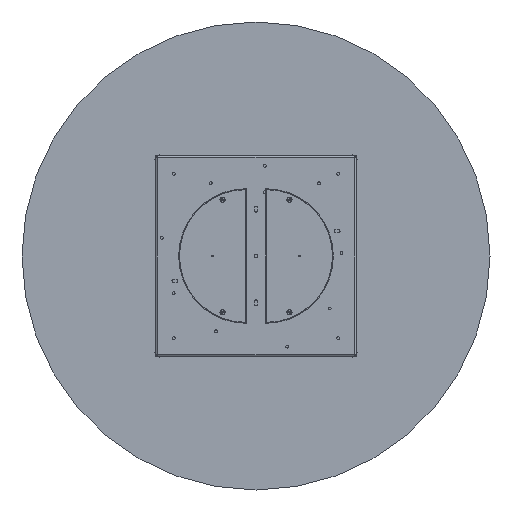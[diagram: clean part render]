
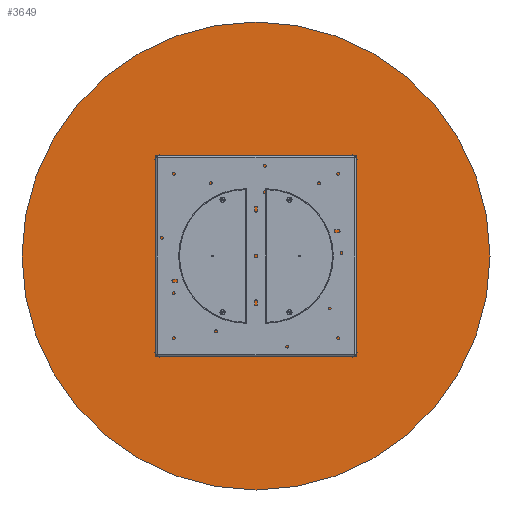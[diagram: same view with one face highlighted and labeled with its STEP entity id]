
A CAD part, front view. The second image highlights one B-rep face of the part: STEP entity #3649.
In plain terms, the highlighted planar face has unit normal (0, -1, 0).
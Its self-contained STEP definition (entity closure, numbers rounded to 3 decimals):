
#190 = CIRCLE ( 'NONE', #1864, 800. ) ;
#1573 = CIRCLE ( 'NONE', #7331, 800. ) ;
#1695 = CARTESIAN_POINT ( 'NONE',  ( 0., 0., 800. ) ) ;
#1864 = AXIS2_PLACEMENT_3D ( 'NONE', #4455, #9055, #13889 ) ;
#2902 = DIRECTION ( 'NONE',  ( 0., -1., 0. ) ) ;
#3649 = ADVANCED_FACE ( 'NONE', ( #10894 ), #13168, .T. ) ;
#3887 = DIRECTION ( 'NONE',  ( 0., -1., 0. ) ) ;
#4455 = CARTESIAN_POINT ( 'NONE',  ( 0., 0., 0. ) ) ;
#6149 = DIRECTION ( 'NONE',  ( 0., 0., -1. ) ) ;
#6228 = AXIS2_PLACEMENT_3D ( 'NONE', #6233, #3887, #6149 ) ;
#6233 = CARTESIAN_POINT ( 'NONE',  ( 0., 0., 0. ) ) ;
#7331 = AXIS2_PLACEMENT_3D ( 'NONE', #14299, #2902, #8539 ) ;
#7944 = ORIENTED_EDGE ( 'NONE', *, *, #10226, .T. ) ;
#8539 = DIRECTION ( 'NONE',  ( 0., 0., -1. ) ) ;
#9055 = DIRECTION ( 'NONE',  ( 0., -1., 0. ) ) ;
#9704 = ORIENTED_EDGE ( 'NONE', *, *, #13832, .T. ) ;
#10226 = EDGE_CURVE ( 'NONE', #11628, #13511, #1573, .T. ) ;
#10894 = FACE_OUTER_BOUND ( 'NONE', #11323, .T. ) ;
#11323 = EDGE_LOOP ( 'NONE', ( #7944, #9704 ) ) ;
#11628 = VERTEX_POINT ( 'NONE', #14248 ) ;
#13168 = PLANE ( 'NONE',  #6228 ) ;
#13511 = VERTEX_POINT ( 'NONE', #1695 ) ;
#13832 = EDGE_CURVE ( 'NONE', #13511, #11628, #190, .T. ) ;
#13889 = DIRECTION ( 'NONE',  ( 0., 0., -1. ) ) ;
#14248 = CARTESIAN_POINT ( 'NONE',  ( 0., 0., -800. ) ) ;
#14299 = CARTESIAN_POINT ( 'NONE',  ( 0., 0., 0. ) ) ;
